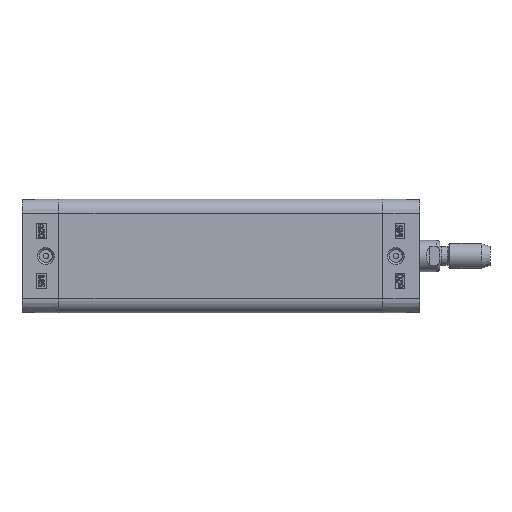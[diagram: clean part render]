
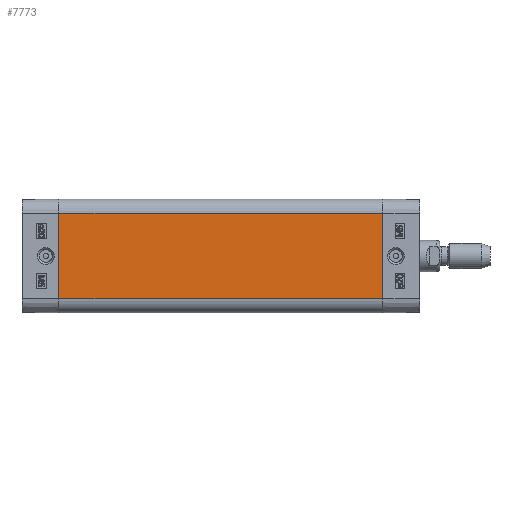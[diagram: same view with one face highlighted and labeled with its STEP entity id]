
A CAD part, left-side view. The second image highlights one B-rep face of the part: STEP entity #7773.
In plain terms, the highlighted planar face has unit normal (-1, 0, 0).
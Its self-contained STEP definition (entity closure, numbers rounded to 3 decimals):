
#6294=CARTESIAN_POINT('',(-18.15,-103.5,13.65));
#6295=VERTEX_POINT('',#6294);
#6302=CARTESIAN_POINT('',(-18.15,-103.5,-13.65));
#6303=VERTEX_POINT('',#6302);
#6304=CARTESIAN_POINT('',(-18.15,-103.5,-13.65));
#6305=DIRECTION('',(0.0,0.0,1.0));
#6306=VECTOR('',#6305,27.3);
#6307=LINE('',#6304,#6306);
#6308=EDGE_CURVE('',#6303,#6295,#6307,.T.);
#7731=CARTESIAN_POINT('',(-18.15,0.0,-13.65));
#7732=VERTEX_POINT('',#7731);
#7733=CARTESIAN_POINT('',(-18.15,0.0,-13.65));
#7734=DIRECTION('',(0.0,-1.0,0.0));
#7735=VECTOR('',#7734,103.5);
#7736=LINE('',#7733,#7735);
#7737=EDGE_CURVE('',#7732,#6303,#7736,.T.);
#7750=CARTESIAN_POINT('',(-18.15,0.0,-13.65));
#7751=DIRECTION('',(-1.0,0.0,0.0));
#7752=DIRECTION('',(0.0,0.0,1.0));
#7753=AXIS2_PLACEMENT_3D('',#7750,#7751,#7752);
#7754=PLANE('',#7753);
#7755=ORIENTED_EDGE('',*,*,#6308,.T.);
#7756=CARTESIAN_POINT('',(-18.15,0.0,13.65));
#7757=VERTEX_POINT('',#7756);
#7758=CARTESIAN_POINT('',(-18.15,0.0,13.65));
#7759=DIRECTION('',(0.0,-1.0,0.0));
#7760=VECTOR('',#7759,103.5);
#7761=LINE('',#7758,#7760);
#7762=EDGE_CURVE('',#7757,#6295,#7761,.T.);
#7763=ORIENTED_EDGE('',*,*,#7762,.F.);
#7764=CARTESIAN_POINT('',(-18.15,0.0,-13.65));
#7765=DIRECTION('',(0.0,0.0,1.0));
#7766=VECTOR('',#7765,27.3);
#7767=LINE('',#7764,#7766);
#7768=EDGE_CURVE('',#7732,#7757,#7767,.T.);
#7769=ORIENTED_EDGE('',*,*,#7768,.F.);
#7770=ORIENTED_EDGE('',*,*,#7737,.T.);
#7771=EDGE_LOOP('',(#7755,#7763,#7769,#7770));
#7772=FACE_OUTER_BOUND('',#7771,.T.);
#7773=ADVANCED_FACE('',(#7772),#7754,.T.);
